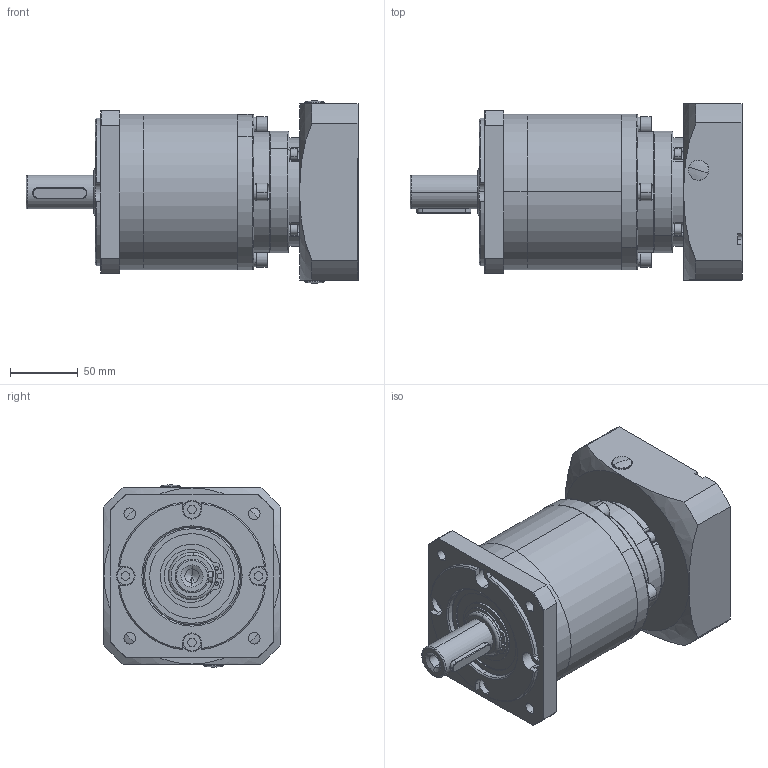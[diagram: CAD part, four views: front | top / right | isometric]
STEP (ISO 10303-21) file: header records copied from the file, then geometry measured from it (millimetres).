
FILE_DESCRIPTION (( 'STEP AP203' ), '1' );
FILE_NAME ('PF115L3-i-P2-S2-22-58-110-145-M8.step', '2020-03-23T09:06:31', ( '个人用户' ), ( '微软中国' ), 'SwSTEP 2.0', 'SolidWorks 2018', '' );
FILE_SCHEMA (( 'CONFIG_CONTROL_DESIGN' ));
Length unit declared in the file: millimetre
Products named in the file (1): PF115L3-i-P2-S2-22-58-110-145-M8
Bounding box: 245 x 130 x 134.6 mm (x, y, z)
Volume: 1576056.9 mm3; surface area: 356293.7 mm2
Topology: 52 solids, 52 shells, 1530 faces, 3572 edges, 2261 vertices
Faces by surface type: cylinder 532, plane 426, sphere 236, torus 168, cone 166, bspline 2
Entity records: 52122 total; most frequent: CARTESIAN_POINT 16315, DIRECTION 8025, ORIENTED_EDGE 7048, EDGE_CURVE 3524, AXIS2_PLACEMENT_3D 3423, VERTEX_POINT 2261, CIRCLE 1894, EDGE_LOOP 1793
